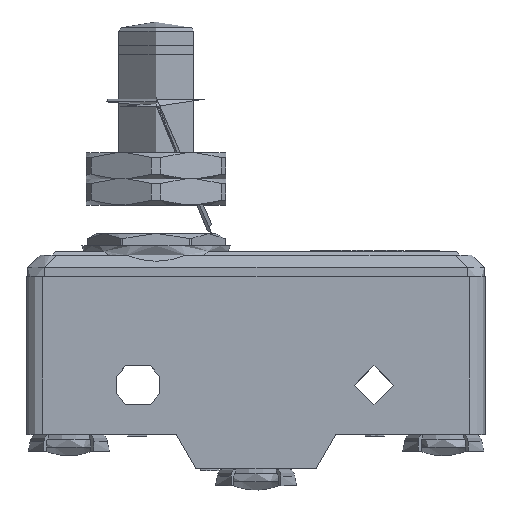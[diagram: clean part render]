
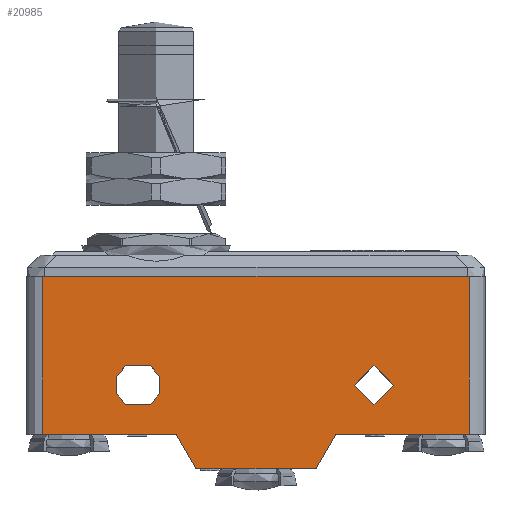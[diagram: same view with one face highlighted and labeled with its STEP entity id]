
A CAD part, top view. The second image highlights one B-rep face of the part: STEP entity #20985.
In plain terms, the highlighted planar face has unit normal (0, 0, 1).
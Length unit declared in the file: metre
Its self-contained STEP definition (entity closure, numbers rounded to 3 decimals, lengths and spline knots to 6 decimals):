
#16011=CARTESIAN_POINT('',(0.006753,-0.003114,0.05825));
#16012=VERTEX_POINT('',#16011);
#16015=CARTESIAN_POINT('',(0.004616,-0.006814,0.05825));
#16016=DIRECTION('',(0.5,0.866,0.));
#16017=VECTOR('',#16016,1.);
#16018=LINE('',#16015,#16017);
#16019=CARTESIAN_POINT('',(0.004616,-0.006814,0.05825));
#16020=VERTEX_POINT('',#16019);
#16021=EDGE_CURVE('',#16020,#16012,#16018,.T.);
#17079=CARTESIAN_POINT('',(-0.008311,-0.006814,0.05825));
#17080=VERTEX_POINT('',#17079);
#17083=CARTESIAN_POINT('',(-0.010447,-0.003114,0.05825));
#17084=DIRECTION('',(0.5,-0.866,0.));
#17085=VECTOR('',#17084,1.);
#17086=LINE('',#17083,#17085);
#17087=CARTESIAN_POINT('',(-0.010447,-0.003114,0.05825));
#17088=VERTEX_POINT('',#17087);
#17089=EDGE_CURVE('',#17088,#17080,#17086,.T.);
#17166=CARTESIAN_POINT('',(-0.024797,0.013886,0.05825));
#17167=VERTEX_POINT('',#17166);
#17176=CARTESIAN_POINT('',(-0.024797,-0.003114,0.05825));
#17177=VERTEX_POINT('',#17176);
#17180=CARTESIAN_POINT('',(-0.024797,0.001486,0.05825));
#17181=DIRECTION('',(0.,-1.,0.));
#17182=VECTOR('',#17181,1.);
#17183=LINE('',#17180,#17182);
#17184=EDGE_CURVE('',#17167,#17177,#17183,.T.);
#18581=CARTESIAN_POINT('',(-0.026547,-0.003114,0.05825));
#18582=DIRECTION('',(1.,0.,0.));
#18583=VECTOR('',#18582,1.);
#18584=LINE('',#18581,#18583);
#18585=EDGE_CURVE('',#17177,#17088,#18584,.T.);
#18691=CARTESIAN_POINT('',(0.021103,-0.003114,0.05825));
#18692=VERTEX_POINT('',#18691);
#18710=CARTESIAN_POINT('',(0.021103,0.013886,0.05825));
#18711=VERTEX_POINT('',#18710);
#18714=CARTESIAN_POINT('',(0.021103,0.001486,0.05825));
#18715=DIRECTION('',(0.,1.,0.));
#18716=VECTOR('',#18715,1.);
#18717=LINE('',#18714,#18716);
#18718=EDGE_CURVE('',#18692,#18711,#18717,.T.);
#18828=CARTESIAN_POINT('',(0.022853,0.013886,0.05825));
#18829=DIRECTION('',(-1.,0.,0.));
#18830=VECTOR('',#18829,1.);
#18831=LINE('',#18828,#18830);
#18832=EDGE_CURVE('',#18711,#17167,#18831,.T.);
#20770=CARTESIAN_POINT('',(0.006753,-0.003114,0.05825));
#20771=DIRECTION('',(1.,0.,0.));
#20772=VECTOR('',#20771,1.);
#20773=LINE('',#20770,#20772);
#20774=EDGE_CURVE('',#16012,#18692,#20773,.T.);
#20808=CARTESIAN_POINT('',(-0.015904,0.004286,0.05825));
#20809=VERTEX_POINT('',#20808);
#20812=CARTESIAN_POINT('',(-0.014547,0.002186,0.05825));
#20813=DIRECTION('',(0.,0.,1.));
#20814=DIRECTION('',(1.,0.,0.));
#20815=AXIS2_PLACEMENT_3D('',#20812,#20813,#20814);
#20816=CIRCLE('',#20815,0.0025);
#20817=CARTESIAN_POINT('',(-0.015904,0.000086,0.05825));
#20818=VERTEX_POINT('',#20817);
#20819=EDGE_CURVE('',#20809,#20818,#20816,.T.);
#20852=CARTESIAN_POINT('',(-0.013191,0.000086,0.05825));
#20853=DIRECTION('',(1.,0.,0.));
#20854=VECTOR('',#20853,1.);
#20855=LINE('',#20852,#20854);
#20856=CARTESIAN_POINT('',(-0.013191,0.000086,0.05825));
#20857=VERTEX_POINT('',#20856);
#20858=EDGE_CURVE('',#20818,#20857,#20855,.T.);
#20882=CARTESIAN_POINT('',(-0.014547,0.002186,0.05825));
#20883=DIRECTION('',(0.,0.,1.));
#20884=DIRECTION('',(1.,0.,0.));
#20885=AXIS2_PLACEMENT_3D('',#20882,#20883,#20884);
#20886=CIRCLE('',#20885,0.0025);
#20887=CARTESIAN_POINT('',(-0.013191,0.004286,0.05825));
#20888=VERTEX_POINT('',#20887);
#20889=EDGE_CURVE('',#20857,#20888,#20886,.T.);
#20924=CARTESIAN_POINT('',(-0.013191,0.004286,0.05825));
#20925=DIRECTION('',(-1.,0.,0.));
#20926=VECTOR('',#20925,1.);
#20927=LINE('',#20924,#20926);
#20928=EDGE_CURVE('',#20888,#20809,#20927,.T.);
#20948=CARTESIAN_POINT('',(0.011493,0.001486,0.05825));
#20949=DIRECTION('',(0.,0.,-1.));
#20950=DIRECTION('',(-1.,0.,0.));
#20951=AXIS2_PLACEMENT_3D('',#20948,#20949,#20950);
#20952=PLANE('',#20951);
#20953=ORIENTED_EDGE('',*,*,#20928,.F.);
#20954=ORIENTED_EDGE('',*,*,#20889,.F.);
#20955=ORIENTED_EDGE('',*,*,#20858,.F.);
#20956=ORIENTED_EDGE('',*,*,#20819,.F.);
#20957=EDGE_LOOP('',(#20953,#20954,#20955,#20956));
#20958=FACE_BOUND('',#20957,.T.);
#20959=CARTESIAN_POINT('',(0.010853,0.002186,0.05825));
#20960=DIRECTION('',(0.,0.,1.));
#20961=DIRECTION('',(1.,0.,0.));
#20962=AXIS2_PLACEMENT_3D('',#20959,#20960,#20961);
#20963=CIRCLE('',#20962,0.0021);
#20964=CARTESIAN_POINT('',(0.008753,0.002186,0.05825));
#20965=VERTEX_POINT('',#20964);
#20966=EDGE_CURVE('',#20965,#20965,#20963,.T.);
#20967=ORIENTED_EDGE('',*,*,#20966,.F.);
#20968=EDGE_LOOP('',(#20967));
#20969=FACE_BOUND('',#20968,.T.);
#20970=ORIENTED_EDGE('',*,*,#20774,.T.);
#20971=ORIENTED_EDGE('',*,*,#18718,.T.);
#20972=ORIENTED_EDGE('',*,*,#18832,.T.);
#20973=ORIENTED_EDGE('',*,*,#17184,.T.);
#20974=ORIENTED_EDGE('',*,*,#18585,.T.);
#20975=ORIENTED_EDGE('',*,*,#17089,.T.);
#20976=CARTESIAN_POINT('',(-0.008311,-0.006814,0.05825));
#20977=DIRECTION('',(1.,0.,0.));
#20978=VECTOR('',#20977,1.);
#20979=LINE('',#20976,#20978);
#20980=EDGE_CURVE('',#17080,#16020,#20979,.T.);
#20981=ORIENTED_EDGE('',*,*,#20980,.T.);
#20982=ORIENTED_EDGE('',*,*,#16021,.T.);
#20983=EDGE_LOOP('',(#20970,#20971,#20972,#20973,#20974,#20975,#20981,#20982));
#20984=FACE_BOUND('',#20983,.T.);
#20985=ADVANCED_FACE('',(#20958,#20969,#20984),#20952,.F.);
